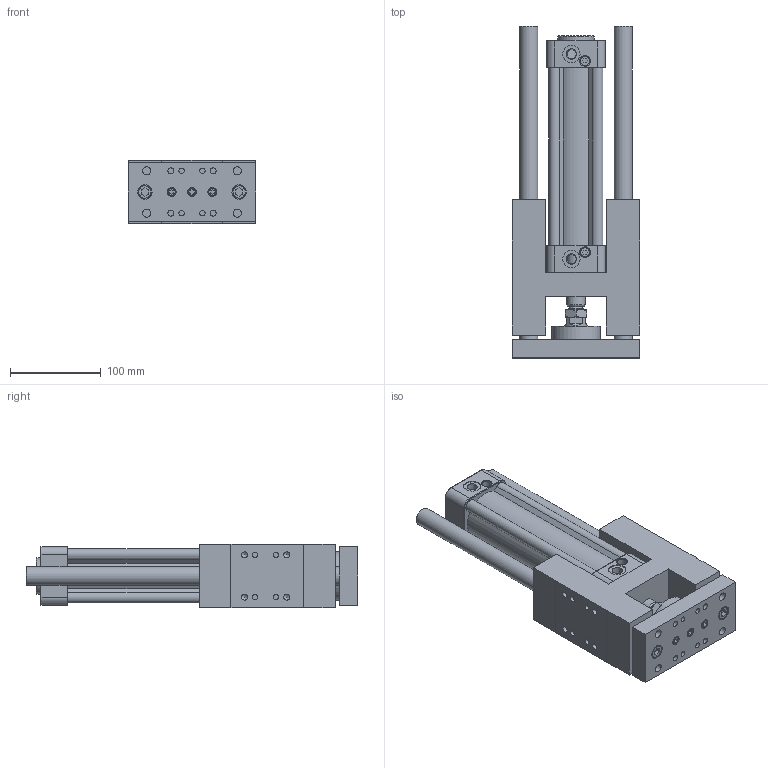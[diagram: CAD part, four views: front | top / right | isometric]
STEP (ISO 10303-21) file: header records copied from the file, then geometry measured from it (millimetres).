
FILE_DESCRIPTION((''),'2;1');
FILE_NAME('I:\3D電子目錄\氣缸\GHB(U)\GHB(U)\GHB(U)50\GHB(U)50x150.stp','2007-10-19T16:40:05',('Administrator'),(''),'Autodesk Inventor 11','Autodesk Inventor 11','');
FILE_SCHEMA(('AUTOMOTIVE_DESIGN { 1 0 10303 214 1 1 1 1 }'));
Length unit declared in the file: millimetre
Products named in the file (1): GHB(U)50
Bounding box: 141 x 366 x 70 mm (x, y, z)
Volume: 1569220.7 mm3; surface area: 320226 mm2
Topology: 1 solids, 13 shells, 779 faces, 1736 edges, 1075 vertices
Faces by surface type: plane 299, bspline 222, cylinder 163, cone 88, torus 7
Full cylindrical faces by diameter (mm): 2.5 x2, 6 x8, 6.647 x4, 6.7 x2, 6.75 x4, 7.25 x2, 7.4 x4, 7.5 x2, 8.5 x9, 9 x2, 9.8 x4, 10 x5, 11.5 x1, 11.9 x1, 12 x3, 13 x4, 14 x8, 14.5 x2, 16 x3, 19 x2, 20 x4, 23 x1, 25 x1, 26 x2, 40 x1, 50 x1, 54 x1
Entity records: 22633 total; most frequent: CARTESIAN_POINT 7068, DIRECTION 3100, ORIENTED_EDGE 3020, EDGE_CURVE 1510, AXIS2_PLACEMENT_3D 1202, EDGE_LOOP 1071, VERTEX_POINT 1029, FACE_OUTER_BOUND 778
